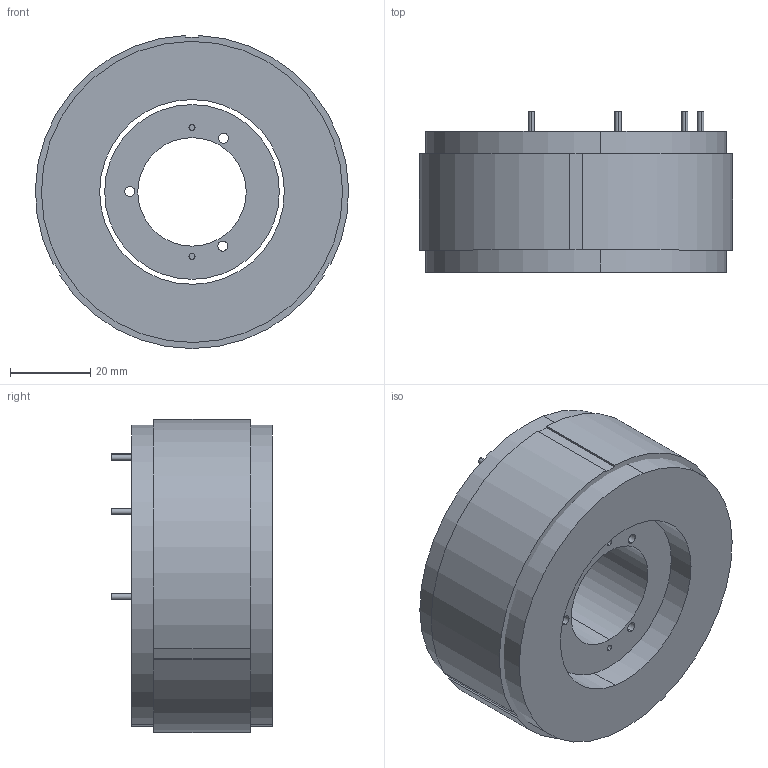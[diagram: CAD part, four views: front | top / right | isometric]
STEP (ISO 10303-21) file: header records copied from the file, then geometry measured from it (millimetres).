
FILE_DESCRIPTION (( 'STEP AP203' ), '1' );
FILE_NAME ('TMXSL78-34 KIT 3D.STEP', '2023-09-07T02:14:40', ( '' ), ( '' ), 'SwSTEP 2.0', 'SolidWorks 2021', '' );
FILE_SCHEMA (( 'CONFIG_CONTROL_DESIGN' ));
Length unit declared in the file: millimetre
Products named in the file (1): TMXSL78-34 KIT 3D
Bounding box: 77.99 x 40 x 77.97 mm (x, y, z)
Volume: 135162.7 mm3; surface area: 39652.9 mm2
Topology: 3 solids, 3 shells, 67 faces, 159 edges, 106 vertices
Faces by surface type: cylinder 44, plane 23
Entity records: 2078 total; most frequent: DIRECTION 383, CARTESIAN_POINT 333, ORIENTED_EDGE 318, EDGE_CURVE 159, AXIS2_PLACEMENT_3D 156, VERTEX_POINT 106, CIRCLE 88, EDGE_LOOP 87
